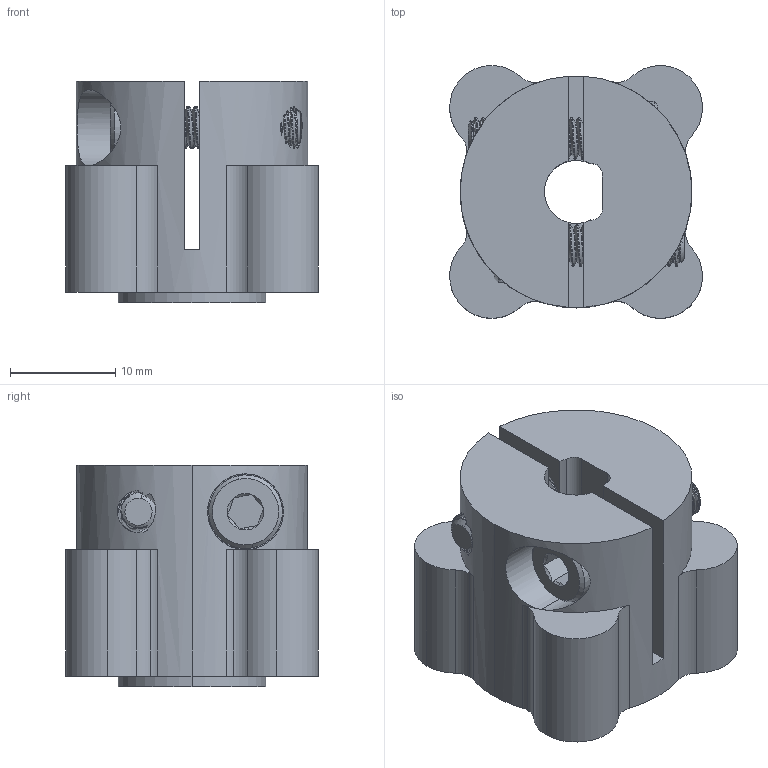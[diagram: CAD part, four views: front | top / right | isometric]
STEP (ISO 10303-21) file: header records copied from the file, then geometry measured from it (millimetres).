
FILE_DESCRIPTION (( 'STEP AP203' ), '1' );
FILE_NAME ('1310-0016-1006 rev1 Assembly.STEP', '2019-05-15T18:52:35', ( '' ), ( '' ), 'SwSTEP 2.0', 'SolidWorks 2016', '' );
FILE_SCHEMA (( 'CONFIG_CONTROL_DESIGN' ));
Length unit declared in the file: millimetre
Products named in the file (3): 1310-0016-1006 rev1; 1310-0016-1006 rev1 Assembly; 2800-0004-0014_90128A207
Assembly tree (3 placements, depth 2):
  1310-0016-1006 rev1 Assembly
    1310-0016-1006 rev1
    2800-0004-0014_90128A207  x2
Bounding box: 23.99 x 23.98 x 21 mm (x, y, z)
Volume: 7658.7 mm3; surface area: 5636.6 mm2
Topology: 3 solids, 3 shells, 628 faces, 1798 edges, 1174 vertices
Faces by surface type: cylinder 509, cone 50, plane 45, bspline 24
Entity records: 44065 total; most frequent: CARTESIAN_POINT 32500, ORIENTED_EDGE 2990, DIRECTION 1808, EDGE_CURVE 1495, VERTEX_POINT 983, AXIS2_PLACEMENT_3D 670, EDGE_LOOP 538, ADVANCED_FACE 520
